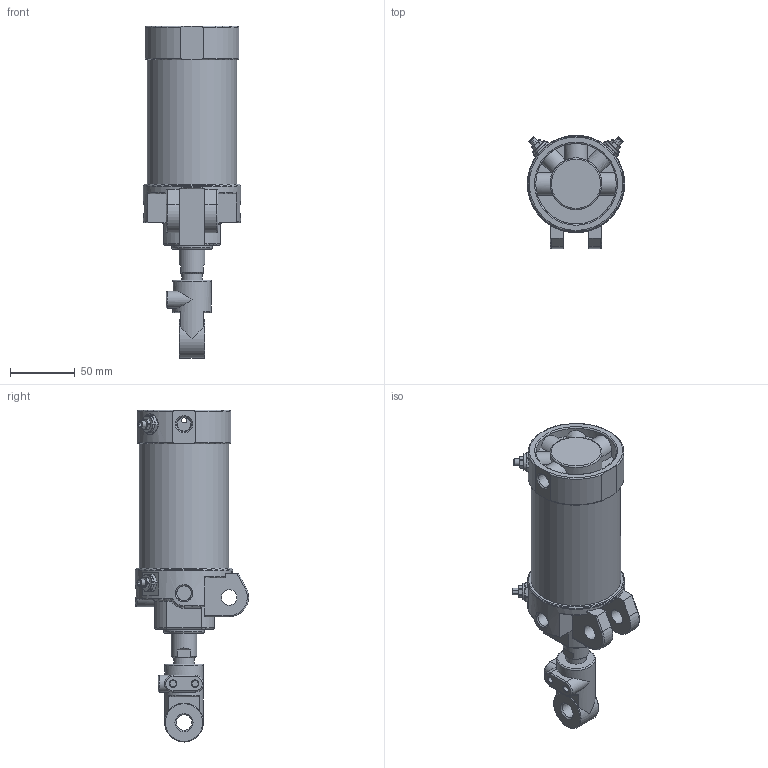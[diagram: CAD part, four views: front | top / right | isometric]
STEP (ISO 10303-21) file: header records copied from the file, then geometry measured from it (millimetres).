
FILE_DESCRIPTION((''),'2;1');
FILE_NAME('I:\3D電子目錄\氣缸\DCK\DCK\DCK-1B-63x50-I.stp','2008-02-26T15:29:16',('Administrator'),(''),'Autodesk Inventor 11','Autodesk Inventor 11','');
FILE_SCHEMA(('AUTOMOTIVE_DESIGN { 1 0 10303 214 1 1 1 1 }'));
Length unit declared in the file: millimetre
Products named in the file (6): DCK-1B-63-I; 緩衝針; 緩衝針-1; 緩衝針-201; 緩衝針-3
Assembly tree (8 placements, depth 3):
  DCK-1B-63-I
    DCK-1B-63-I
    緩衝針  x4
      緩衝針-1
      緩衝針-201
      緩衝針-3
Bounding box: 75 x 87.29 x 256 mm (x, y, z)
Volume: 354505.9 mm3; surface area: 122480.8 mm2
Topology: 17 solids, 17 shells, 639 faces, 1407 edges, 875 vertices
Faces by surface type: plane 233, cylinder 179, cone 139, torus 49, bspline 39
Full cylindrical faces by diameter (mm): 2 x1, 3 x2, 3.8 x2, 4 x6, 4.6 x4, 5 x8, 5.1 x4, 5.2 x12, 5.5 x4, 7 x1, 7.25 x1, 7.9 x4, 8 x2, 11.3 x3, 12 x3, 12.8 x4, 16 x3, 20 x1, 21 x1, 22 x2, 23 x1, 24.7 x1, 26 x1, 27 x1, 28 x1, 29 x1, 30 x2, 31 x1, 33 x1, 62 x1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
Entity records: 13902 total; most frequent: CARTESIAN_POINT 5736, DIRECTION 1661, ORIENTED_EDGE 1492, EDGE_CURVE 746, AXIS2_PLACEMENT_3D 726, EDGE_LOOP 584, VERTEX_POINT 538, FACE_OUTER_BOUND 390
